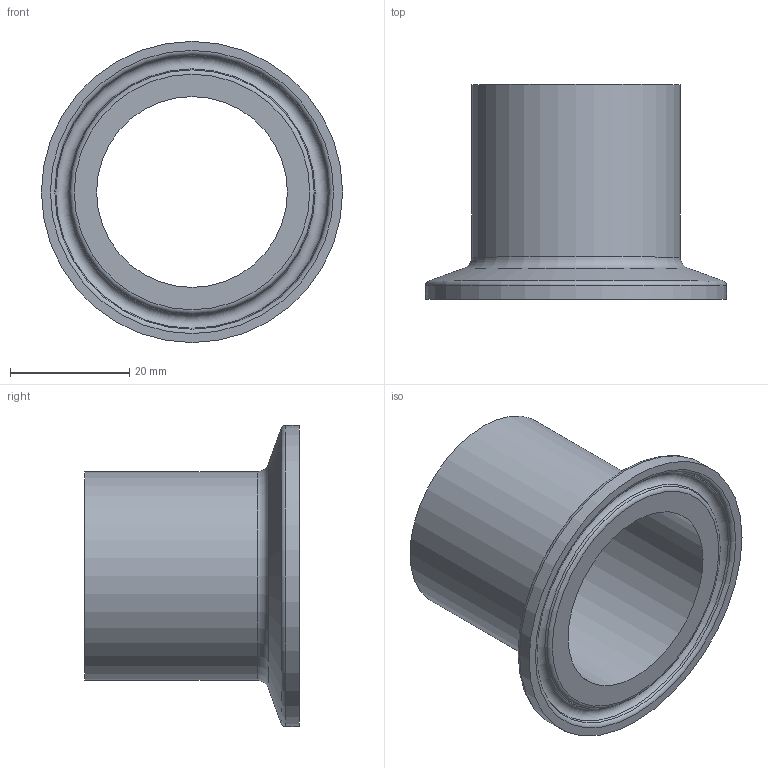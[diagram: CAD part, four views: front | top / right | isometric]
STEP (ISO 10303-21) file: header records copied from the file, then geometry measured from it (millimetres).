
FILE_DESCRIPTION(('Ferrule_35x1,5_L36_FL50,5_V02'),'2;1');
FILE_NAME('Ferrule_35x1,5_L36_FL50,5_V02.stp','2013-11-03T13:12:00',('DOCKWEILER AG'),('DOCKWEILER AG'),'Autodesk Inventor 2012','Autodesk Inventor 2012','');
FILE_SCHEMA(('CONFIG_CONTROL_DESIGN'));
Length unit declared in the file: millimetre
Products named in the file (1): N0003_003_001
Bounding box: 50.5 x 36 x 50.5 mm (x, y, z)
Volume: 9580.8 mm3; surface area: 10014.5 mm2
Topology: 1 solids, 1 shells, 14 faces, 25 edges, 14 vertices
Faces by surface type: torus 5, plane 3, cylinder 3, cone 3
Full cylindrical faces by diameter (mm): 32 x1, 35 x1, 50.5 x1
Entity records: 314 total; most frequent: DIRECTION 58, CARTESIAN_POINT 43, AXIS2_PLACEMENT_3D 29, ORIENTED_EDGE 28, EDGE_LOOP 28, VERTEX_POINT 14, CIRCLE 14, EDGE_CURVE 14
